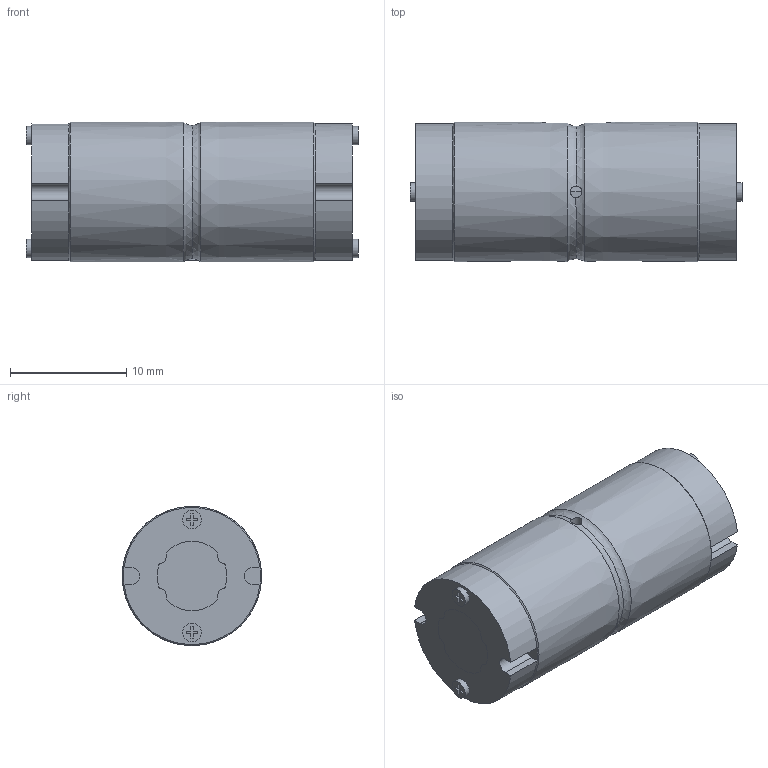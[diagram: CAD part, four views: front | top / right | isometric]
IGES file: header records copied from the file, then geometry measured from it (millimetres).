
Start section: Data from Parasolid IGES Translator 26.0.171, Copyright(c) 2006 Siemens PLM Software. All Rights Reserved.
Global section: file name: LT6XL+27.6L(00).igs; native system: By Siemens PLM Incorporated; preprocessor: XPlus GENERIC/IGES 26.0.171; author: Noname; organization: Noname; date: 20240528.070712; units: millimetre
Bounding box: 28.6 x 12 x 12 mm (x, y, z)
Surface area: 2400.8 mm2 (no closed solid volume)
Topology: 0 solids, 0 shells, 143 faces, 778 edges, 765 vertices
Faces by surface type: extrusion 83, revolution 60
